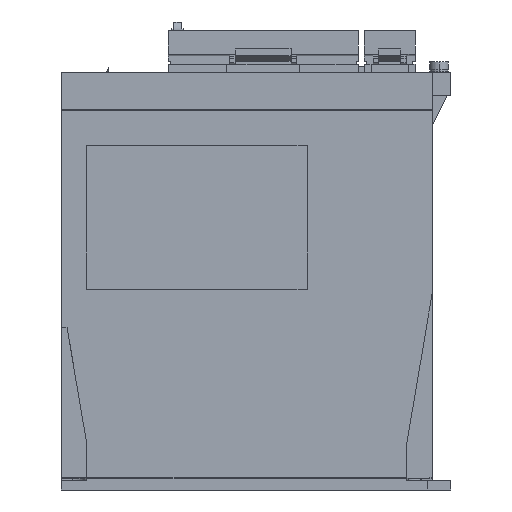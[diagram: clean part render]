
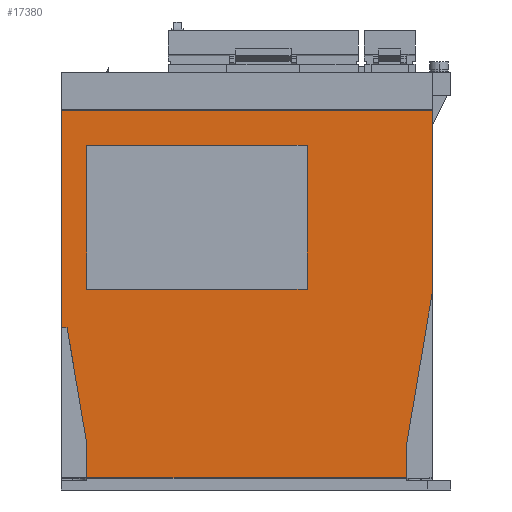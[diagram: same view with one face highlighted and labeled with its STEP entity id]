
A CAD part, left-side view. The second image highlights one B-rep face of the part: STEP entity #17380.
In plain terms, the highlighted planar face has unit normal (-1, 0, 0).
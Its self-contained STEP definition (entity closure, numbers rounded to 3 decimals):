
#15183 = DIRECTION ( 'NONE',  ( 0., 0., -1. ) ) ;
#15184 = VECTOR ( 'NONE', #15183, 1000. ) ;
#15185 = CARTESIAN_POINT ( 'NONE',  ( -6., 5., 338.642 ) ) ;
#15186 = LINE ( 'NONE', #15185, #15184 ) ;
#15187 = CARTESIAN_POINT ( 'NONE',  ( -6., 5., 70. ) ) ;
#15200 = CARTESIAN_POINT ( 'NONE',  ( -6., 5., 163.8 ) ) ;
#16904 = ORIENTED_EDGE ( 'NONE', *, *, #17356, .T. ) ;
#16911 = ORIENTED_EDGE ( 'NONE', *, *, #36412, .T. ) ;
#16921 = EDGE_LOOP ( 'NONE', ( #16911, #16904, #17354, #17335, #16972, #16979, #16968, #17412, #17400 ) ) ;
#16925 = EDGE_CURVE ( 'NONE', #16944, #16928, #37220, .T. ) ;
#16926 = ORIENTED_EDGE ( 'NONE', *, *, #16925, .F. ) ;
#16928 = VERTEX_POINT ( 'NONE', #37215 ) ;
#16929 = ORIENTED_EDGE ( 'NONE', *, *, #16931, .F. ) ;
#16931 = EDGE_CURVE ( 'NONE', #16928, #16932, #37210, .T. ) ;
#16932 = VERTEX_POINT ( 'NONE', #37206 ) ;
#16942 = ORIENTED_EDGE ( 'NONE', *, *, #16943, .F. ) ;
#16943 = EDGE_CURVE ( 'NONE', #16932, #16958, #37257, .T. ) ;
#16944 = VERTEX_POINT ( 'NONE', #37253 ) ;
#16958 = VERTEX_POINT ( 'NONE', #37286 ) ;
#16967 = VERTEX_POINT ( 'NONE', #37269 ) ;
#16968 = ORIENTED_EDGE ( 'NONE', *, *, #17413, .T. ) ;
#16969 = ORIENTED_EDGE ( 'NONE', *, *, #16970, .F. ) ;
#16970 = EDGE_CURVE ( 'NONE', #16958, #16944, #37331, .T. ) ;
#16972 = ORIENTED_EDGE ( 'NONE', *, *, #16982, .T. ) ;
#16973 = VERTEX_POINT ( 'NONE', #37323 ) ;
#16979 = ORIENTED_EDGE ( 'NONE', *, *, #16981, .F. ) ;
#16981 = EDGE_CURVE ( 'NONE', #16967, #16973, #37308, .T. ) ;
#16982 = EDGE_CURVE ( 'NONE', #16985, #16973, #37304, .T. ) ;
#16985 = VERTEX_POINT ( 'NONE', #37362 ) ;
#17334 = VERTEX_POINT ( 'NONE', #37851 ) ;
#17335 = ORIENTED_EDGE ( 'NONE', *, *, #17424, .T. ) ;
#17338 = VERTEX_POINT ( 'NONE', #37846 ) ;
#17346 = EDGE_CURVE ( 'NONE', #17355, #17334, #37888, .T. ) ;
#17349 = EDGE_CURVE ( 'NONE', #17338, #17357, #37884, .T. ) ;
#17354 = ORIENTED_EDGE ( 'NONE', *, *, #17349, .F. ) ;
#17355 = VERTEX_POINT ( 'NONE', #37936 ) ;
#17356 = EDGE_CURVE ( 'NONE', #36409, #17357, #37935, .T. ) ;
#17357 = VERTEX_POINT ( 'NONE', #37931 ) ;
#17380 = ADVANCED_FACE ( 'NONE', ( #37962, #37961 ), #37960, .F. ) ;
#17383 = EDGE_LOOP ( 'NONE', ( #16969, #16942, #16929, #16926 ) ) ;
#17400 = ORIENTED_EDGE ( 'NONE', *, *, #17401, .F. ) ;
#17401 = EDGE_CURVE ( 'NONE', #36439, #17355, #37988, .T. ) ;
#17412 = ORIENTED_EDGE ( 'NONE', *, *, #17346, .F. ) ;
#17413 = EDGE_CURVE ( 'NONE', #16967, #17334, #38037, .T. ) ;
#17424 = EDGE_CURVE ( 'NONE', #17338, #16985, #38011, .T. ) ;
#36409 = VERTEX_POINT ( 'NONE', #15187 ) ;
#36412 = EDGE_CURVE ( 'NONE', #36439, #36409, #15186, .T. ) ;
#36439 = VERTEX_POINT ( 'NONE', #15200 ) ;
#37206 = CARTESIAN_POINT ( 'NONE',  ( -6., -6., 86.6 ) ) ;
#37207 = DIRECTION ( 'NONE',  ( 0., 0., -1. ) ) ;
#37208 = VECTOR ( 'NONE', #37207, 1000. ) ;
#37209 = CARTESIAN_POINT ( 'NONE',  ( -6., -6., 86.6 ) ) ;
#37210 = LINE ( 'NONE', #37209, #37208 ) ;
#37215 = CARTESIAN_POINT ( 'NONE',  ( -6., -6., 148.6 ) ) ;
#37217 = DIRECTION ( 'NONE',  ( 0., 1., 0. ) ) ;
#37218 = VECTOR ( 'NONE', #37217, 1000. ) ;
#37219 = CARTESIAN_POINT ( 'NONE',  ( -6., -6., 148.6 ) ) ;
#37220 = LINE ( 'NONE', #37219, #37218 ) ;
#37253 = CARTESIAN_POINT ( 'NONE',  ( -6., -101., 148.6 ) ) ;
#37254 = DIRECTION ( 'NONE',  ( 0., -1., 0. ) ) ;
#37255 = VECTOR ( 'NONE', #37254, 1000. ) ;
#37256 = CARTESIAN_POINT ( 'NONE',  ( -6., -6., 86.6 ) ) ;
#37257 = LINE ( 'NONE', #37256, #37255 ) ;
#37269 = CARTESIAN_POINT ( 'NONE',  ( -6., -144., 20. ) ) ;
#37286 = CARTESIAN_POINT ( 'NONE',  ( -6., -101., 86.6 ) ) ;
#37301 = DIRECTION ( 'NONE',  ( 0., -1., 0. ) ) ;
#37302 = VECTOR ( 'NONE', #37301, 1000. ) ;
#37303 = CARTESIAN_POINT ( 'NONE',  ( -6., -6., 5.2 ) ) ;
#37304 = LINE ( 'NONE', #37303, #37302 ) ;
#37305 = DIRECTION ( 'NONE',  ( 0., 0., -1. ) ) ;
#37306 = VECTOR ( 'NONE', #37305, 1000. ) ;
#37307 = CARTESIAN_POINT ( 'NONE',  ( -6., -144., 20. ) ) ;
#37308 = LINE ( 'NONE', #37307, #37306 ) ;
#37323 = CARTESIAN_POINT ( 'NONE',  ( -6., -144., 5.2 ) ) ;
#37328 = DIRECTION ( 'NONE',  ( 0., 0., 1. ) ) ;
#37329 = VECTOR ( 'NONE', #37328, 1000. ) ;
#37330 = CARTESIAN_POINT ( 'NONE',  ( -6., -101., 86.6 ) ) ;
#37331 = LINE ( 'NONE', #37330, #37329 ) ;
#37362 = CARTESIAN_POINT ( 'NONE',  ( -6., -6., 5.2 ) ) ;
#37846 = CARTESIAN_POINT ( 'NONE',  ( -6., -6., 20. ) ) ;
#37851 = CARTESIAN_POINT ( 'NONE',  ( -6., -155., 85. ) ) ;
#37881 = DIRECTION ( 'NONE',  ( 0., 0.167, 0.986 ) ) ;
#37882 = VECTOR ( 'NONE', #37881, 1000. ) ;
#37883 = CARTESIAN_POINT ( 'NONE',  ( -6., -6., 20. ) ) ;
#37884 = LINE ( 'NONE', #37883, #37882 ) ;
#37885 = DIRECTION ( 'NONE',  ( 0., 0., -1. ) ) ;
#37886 = VECTOR ( 'NONE', #37885, 1000. ) ;
#37887 = CARTESIAN_POINT ( 'NONE',  ( -6., -155., 338.642 ) ) ;
#37888 = LINE ( 'NONE', #37887, #37886 ) ;
#37931 = CARTESIAN_POINT ( 'NONE',  ( -6., 2.462, 70. ) ) ;
#37932 = DIRECTION ( 'NONE',  ( 0., -1., 0. ) ) ;
#37933 = VECTOR ( 'NONE', #37932, 1000. ) ;
#37934 = CARTESIAN_POINT ( 'NONE',  ( -6., 5., 70. ) ) ;
#37935 = LINE ( 'NONE', #37934, #37933 ) ;
#37936 = CARTESIAN_POINT ( 'NONE',  ( -6., -155., 163.8 ) ) ;
#37955 = DIRECTION ( 'NONE',  ( 0., 1., 0. ) ) ;
#37956 = DIRECTION ( 'NONE',  ( 1., 0., 0. ) ) ;
#37957 = CARTESIAN_POINT ( 'NONE',  ( -6., 5., 338.642 ) ) ;
#37958 = AXIS2_PLACEMENT_3D ( 'NONE', #37957, #37956, #37955 ) ;
#37960 = PLANE ( 'NONE',  #37958 ) ;
#37961 = FACE_OUTER_BOUND ( 'NONE', #16921, .T. ) ;
#37962 = FACE_BOUND ( 'NONE', #17383, .T. ) ;
#37985 = DIRECTION ( 'NONE',  ( 0., -1., 0. ) ) ;
#37986 = VECTOR ( 'NONE', #37985, 1000. ) ;
#37987 = CARTESIAN_POINT ( 'NONE',  ( -6., 5., 163.8 ) ) ;
#37988 = LINE ( 'NONE', #37987, #37986 ) ;
#38008 = DIRECTION ( 'NONE',  ( 0., 0., -1. ) ) ;
#38009 = VECTOR ( 'NONE', #38008, 1000. ) ;
#38010 = CARTESIAN_POINT ( 'NONE',  ( -6., -6., 20. ) ) ;
#38011 = LINE ( 'NONE', #38010, #38009 ) ;
#38034 = DIRECTION ( 'NONE',  ( 0., -0.167, 0.986 ) ) ;
#38035 = VECTOR ( 'NONE', #38034, 1000. ) ;
#38036 = CARTESIAN_POINT ( 'NONE',  ( -6., -144., 20. ) ) ;
#38037 = LINE ( 'NONE', #38036, #38035 ) ;
